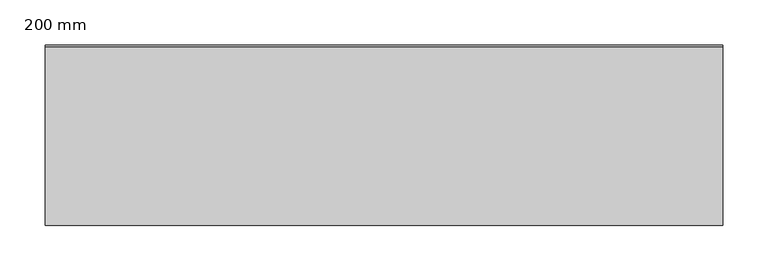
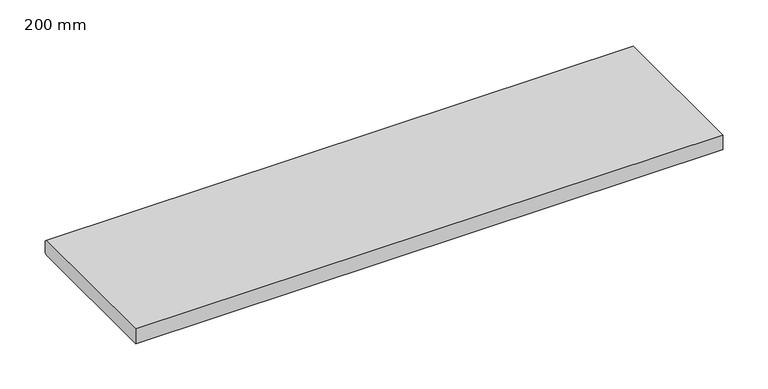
"""IFC4 building model written with IfcOpenShell, lengths in millimetres: proxy geometry, 400_35_NS_vensterbank : 200 mm."""

import ifcopenshell
import ifcopenshell.guid

model = None  # the IFC model being written
_history = None  # IfcOwnerHistory: only IFC2X3 demands one
_inside = {}  # id of a spatial element -> (the spatial element, [elements in it])
_under = {}  # id of a project, library or spatial element -> (it, [spatial elements below it])
_declared = {}  # id of a project -> (the project, [libraries it declares])
_typed = {}  # id of a type object -> (the type object, [elements of that type])
_made_of = {}  # id of a material, layer set ... -> (it, [elements and type objects made of it])


def new_model(schema):
    """Start an empty IFC model of exactly this schema.

    Asked for "IFC4X3", IfcOpenShell would pick the latest addendum, in which some entities
    have other attributes; the version numbers below select the first issue.
    IFC2X3 requires an IfcOwnerHistory on every rooted entity: one is made here for all.
    """
    global model, _history
    if schema == "IFC4X3":
        model = ifcopenshell.file(schema_version=(4, 3, 0, 0))
    else:
        model = ifcopenshell.file(schema=schema)
    _inside.clear()
    _under.clear()
    _declared.clear()
    _typed.clear()
    _made_of.clear()
    _history = None
    if model.schema == "IFC2X3":
        org = make("IfcOrganization", Name="unknown")
        user = make(
            "IfcPersonAndOrganization",
            ThePerson=make("IfcPerson", FamilyName="unknown"),
            TheOrganization=org,
        )
        app = make(
            "IfcApplication",
            ApplicationDeveloper=org,
            Version="unknown",
            ApplicationFullName="unknown",
            ApplicationIdentifier="unknown",
        )
        _history = make(
            "IfcOwnerHistory",
            OwningUser=user,
            OwningApplication=app,
            ChangeAction="ADDED",
            CreationDate=0,
        )
    return model


def make(cls, **values):
    """One entity of the class cls with the attributes given. An attribute that is None is left unset."""
    return model.create_entity(
        cls, **{name: value for name, value in values.items() if value is not None}
    )


def rooted(cls, **values):
    """An entity with a GlobalId (a new one), such as an element, a storey or a relation."""
    return make(cls, GlobalId=ifcopenshell.guid.new(), OwnerHistory=_history, **values)


def si_unit(unit_type, name, prefix=None):
    """IfcSIUnit, for example si_unit("LENGTHUNIT", "METRE", prefix="MILLI")."""
    return make("IfcSIUnit", UnitType=unit_type, Prefix=prefix, Name=name)


def assignment(units):
    """IfcUnitAssignment: the units of a project."""
    return None if units is None else make("IfcUnitAssignment", Units=units)


def point(xyz):
    """IfcCartesianPoint."""
    return None if xyz is None else make("IfcCartesianPoint", Coordinates=xyz)


def direction(xyz):
    """IfcDirection."""
    return None if xyz is None else make("IfcDirection", DirectionRatios=xyz)


def frame(location, z_axis=None, x_axis=None):
    """IfcAxis2Placement3D, a coordinate frame: its origin and axes. An axis left out is left unset."""
    return make(
        "IfcAxis2Placement3D",
        Location=point(location),
        Axis=direction(z_axis),
        RefDirection=direction(x_axis),
    )


def origin():
    """The frame at (0, 0, 0) with its axes left unset."""
    return frame((0.0, 0.0, 0.0))


def place(relative_to, where):
    """IfcLocalPlacement: puts the frame where relative to a parent placement (None: the world)."""
    return make(
        "IfcLocalPlacement", PlacementRelTo=relative_to, RelativePlacement=where
    )


def context(
    kind, dimensions, precision=None, world=None, true_north=None, identifier=None
):
    """IfcGeometricRepresentationContext, for example the 3D "Model" context."""
    return make(
        "IfcGeometricRepresentationContext",
        ContextIdentifier=identifier,
        ContextType=kind,
        CoordinateSpaceDimension=dimensions,
        Precision=precision,
        WorldCoordinateSystem=world,
        TrueNorth=true_north,
    )


def project(units=None, contexts=None):
    """IfcProject with its units and contexts."""
    return rooted(
        "IfcProject",
        Name="project",
        RepresentationContexts=contexts,
        UnitsInContext=assignment(units),
    )


def spatial(cls, under=None, at=None, **own):
    """A site, building, storey or space (cls), placed at a placement, below another one or the project."""
    s = rooted(cls, ObjectPlacement=at, **own)
    if under is not None:
        _under.setdefault(under.id(), (under, []))[1].append(s)
    return s


def polyline(points):
    """IfcPolyline through the points."""
    return make("IfcPolyline", Points=[point(p) for p in points])


def outline(outer, holes=None, kind="AREA"):
    """IfcArbitraryClosedProfileDef: a profile drawn as a closed curve; with holes, ...WithVoids."""
    if holes is None:
        return make("IfcArbitraryClosedProfileDef", ProfileType=kind, OuterCurve=outer)
    return make(
        "IfcArbitraryProfileDefWithVoids",
        ProfileType=kind,
        OuterCurve=outer,
        InnerCurves=holes,
    )


def extrude(swept, where, along, depth):
    """IfcExtrudedAreaSolid: the profile swept, set in the frame where, extruded along a direction by depth."""
    return make(
        "IfcExtrudedAreaSolid",
        SweptArea=swept,
        Position=where,
        ExtrudedDirection=direction(along),
        Depth=depth,
    )


def shape(context_of_items, identifier, shape_type, items):
    """IfcShapeRepresentation: the items that make up one representation, for example the "Body"."""
    return make(
        "IfcShapeRepresentation",
        ContextOfItems=context_of_items,
        RepresentationIdentifier=identifier,
        RepresentationType=shape_type,
        Items=items,
    )


def source(mapping_origin, context_of_items, identifier, shape_type, items):
    """IfcRepresentationMap: a shape defined once, which mapped items show again and again."""
    return make(
        "IfcRepresentationMap",
        MappingOrigin=mapping_origin,
        MappedRepresentation=shape(context_of_items, identifier, shape_type, items),
    )


def transform(
    local_origin,
    x_axis=None,
    y_axis=None,
    z_axis=None,
    scale=None,
    scale2=None,
    scale3=None,
    uniform=True,
):
    """IfcCartesianTransformationOperator3D, or its non-uniform kind. x_axis, y_axis, z_axis: its Axis1, 2, 3."""
    if uniform:
        return make(
            "IfcCartesianTransformationOperator3D",
            Axis1=direction(x_axis),
            Axis2=direction(y_axis),
            LocalOrigin=point(local_origin),
            Scale=scale,
            Axis3=direction(z_axis),
        )
    return make(
        "IfcCartesianTransformationOperator3DnonUniform",
        Axis1=direction(x_axis),
        Axis2=direction(y_axis),
        LocalOrigin=point(local_origin),
        Scale=scale,
        Axis3=direction(z_axis),
        Scale2=scale2,
        Scale3=scale3,
    )


def mapped(mapping_source, mapping_target):
    """IfcMappedItem: shows the shape of a source again, moved by a transform."""
    return make(
        "IfcMappedItem", MappingSource=mapping_source, MappingTarget=mapping_target
    )


def made_of(thing, what):
    """Note that an element or type object is made of a material, layer set ...; save() writes the relation."""
    if what is not None:
        _made_of.setdefault(what.id(), (what, []))[1].append(thing)
    return thing


def element(
    cls,
    number,
    at=None,
    inside=None,
    cuts=None,
    type_object=None,
    material=None,
    context=None,
    identifier="Body",
    shape_type=None,
    held_by="IfcProductDefinitionShape",
    body=None,
    shapes=None,
    **own,
):
    """One element of the class cls, such as IfcWall. Its Tag is "e" and its number.

    at: its placement. inside: the storey or other place that contains it. cuts: it is an
    opening in that element (IfcRelVoidsElement). A single representation is given by context,
    identifier, shape_type and body (its items); several are given by shapes. held_by: the class
    of the entity that holds the representations. save() writes the other relations.
    """
    e = rooted(cls, Tag="e%d" % number, ObjectPlacement=at, **own)
    if body is not None:
        shapes = [shape(context, identifier, shape_type, body)]
    if shapes is not None:
        e.Representation = make(held_by, Representations=shapes)
    if inside is not None:
        _inside.setdefault(inside.id(), (inside, []))[1].append(e)
    if cuts is not None:
        rooted(
            "IfcRelVoidsElement", RelatingBuildingElement=cuts, RelatedOpeningElement=e
        )
    if type_object is not None:
        _typed.setdefault(type_object.id(), (type_object, []))[1].append(e)
    return made_of(e, material)


def aggregate(whole, parts):
    """IfcRelAggregates: a whole, such as a stair, and the parts it consists of."""
    return rooted("IfcRelAggregates", RelatingObject=whole, RelatedObjects=parts)


def save(model, path):
    """Write the relations noted so far, then the file.

    IfcRelAggregates (storeys below a building ...), IfcRelContainedInSpatialStructure (elements
    in a storey), IfcRelDefinesByType, IfcRelAssociatesMaterial and IfcRelDeclares: one each for
    every whole, place, type object, material and project.
    """
    for whole, parts in _under.values():
        aggregate(whole, parts)
    for where, things in _inside.values():
        rooted(
            "IfcRelContainedInSpatialStructure",
            RelatedElements=things,
            RelatingStructure=where,
        )
    for kind, things in _typed.values():
        rooted("IfcRelDefinesByType", RelatedObjects=things, RelatingType=kind)
    for what, things in _made_of.values():
        rooted("IfcRelAssociatesMaterial", RelatedObjects=things, RelatingMaterial=what)
    for by, libraries in _declared.values():
        rooted("IfcRelDeclares", RelatingContext=by, RelatedDefinitions=libraries)
    model.write(path)


def proxy_200_mm_76491fd2(model_context):
    return source(origin(), model_context, "Body", "SweptSolid", [
        extrude(outline(polyline([(0.0, 0.0), (0.0, 20.0), (198.0, 20.0), (200.0, 18.0), (200.0, 2.0), (198.0, 0.0), (0.0, 0.0)])), frame((-375.0, 0.0, 0.0), z_axis=(1.0, 0.0, 0.0), x_axis=(0.0, 1.0, 0.0)), (0.0, 0.0, 1.0), 750.0),
    ])


if __name__ == "__main__":
    model = new_model("IFC4")
    model_context = context("Model", 3, world=origin())
    ifc_project = project(units=[si_unit("LENGTHUNIT", "METRE", prefix="MILLI")], contexts=[model_context])
    site = spatial("IfcSite", under=ifc_project)
    building = spatial("IfcBuilding", under=site)
    placement = place(None, origin())
    proxy_200_mm_shape = proxy_200_mm_76491fd2(model_context)
    element("IfcBuildingElementProxy", 1, Name="400_35_NS_vensterbank : 200 mm", ObjectType="400_35_NS_vensterbank : 200 mm", at=placement, inside=building, context=model_context, shape_type="MappedRepresentation", body=[
        mapped(proxy_200_mm_shape, transform((0.0, 0.0, 0.0), x_axis=(1.0, 0.0, 0.0), y_axis=(0.0, 1.0, 0.0), z_axis=(0.0, 0.0, 1.0))),
    ])
    save(model, "model.ifc")
